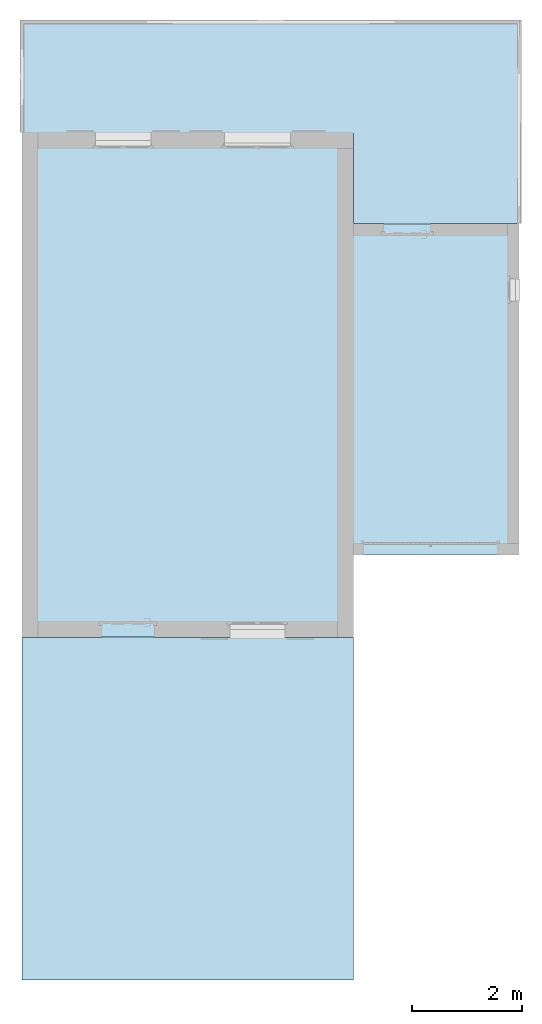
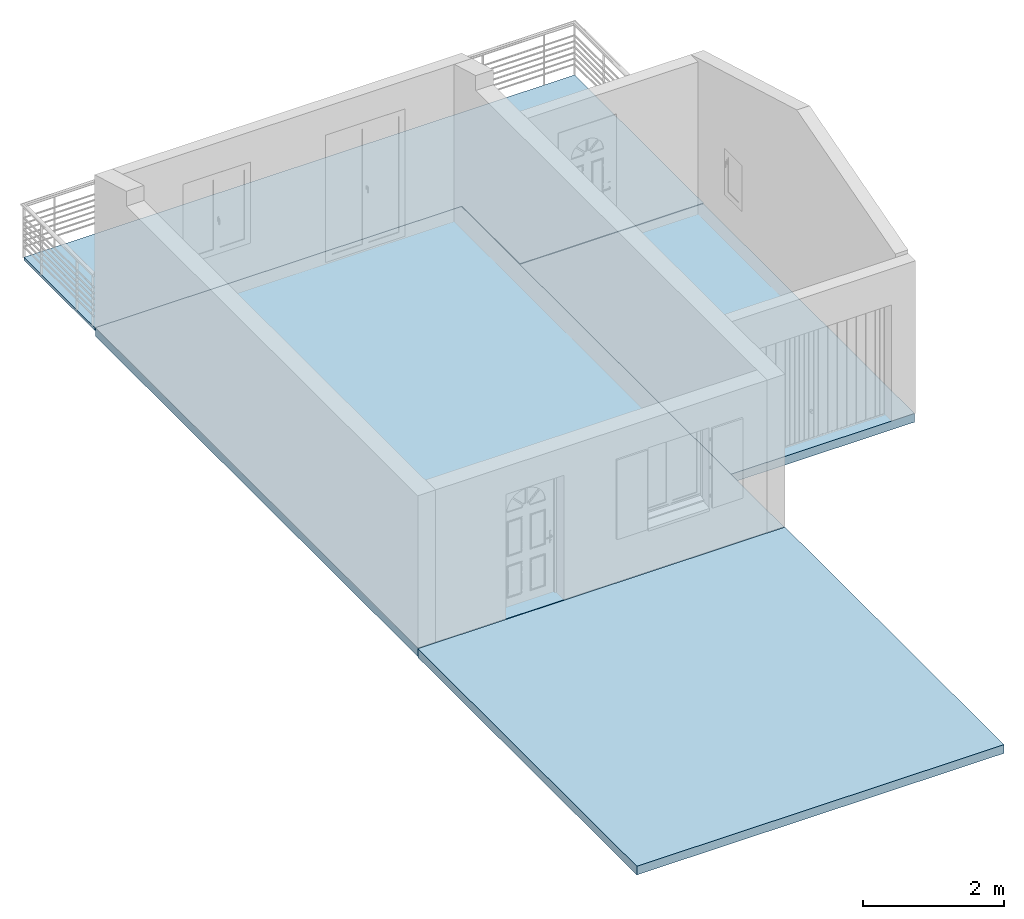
# One storey, part 1 of 6: 4 slabs.
"""IFC2X3 building model written with IfcOpenShell, lengths in metres."""

from ifc_helpers import new_model, entity, si_unit, converted_unit, derived_unit, direction, frame, frame_2d, origin, place, context, subcontext, project, spatial, polyline, rectangle, outline, extrude, material, layer, layer_set, layer_usage, element, save


model = new_model("IFC2X3")

# Units and contexts
model_context = context("Model", 3, precision=1e-05, world=origin(), true_north=direction((6.12303176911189e-17, 1.0)))
context_of_model = context(None, 3, precision=1e-05, world=origin(), true_north=direction((6.12303176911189e-17, 1.0)))
body_context = subcontext(model_context, "Body", "Model", "MODEL_VIEW")
ifc_project = project(units=[si_unit("LENGTHUNIT", "METRE"), si_unit("AREAUNIT", "SQUARE_METRE"), si_unit("VOLUMEUNIT", "CUBIC_METRE"), converted_unit("PLANEANGLEUNIT", "DEGREE", entity("IfcRatioMeasure", 0.0174532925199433), si_unit("PLANEANGLEUNIT", "RADIAN"), dimensions=[0, 0, 0, 0, 0, 0, 0]), si_unit("MASSUNIT", "GRAM", prefix="KILO"), si_unit("TIMEUNIT", "SECOND"), si_unit("FREQUENCYUNIT", "HERTZ"), si_unit("THERMODYNAMICTEMPERATUREUNIT", "DEGREE_CELSIUS"), derived_unit("THERMALTRANSMITTANCEUNIT", [(si_unit("MASSUNIT", "GRAM", prefix="KILO"), 1), (si_unit("THERMODYNAMICTEMPERATUREUNIT", "KELVIN"), -1), (si_unit("TIMEUNIT", "SECOND"), -3)]), derived_unit("VOLUMETRICFLOWRATEUNIT", [(si_unit("LENGTHUNIT", "METRE"), 3), (si_unit("TIMEUNIT", "SECOND"), -1)]), si_unit("ELECTRICCURRENTUNIT", "AMPERE"), si_unit("ELECTRICVOLTAGEUNIT", "VOLT"), si_unit("POWERUNIT", "WATT"), si_unit("FORCEUNIT", "NEWTON", prefix="KILO"), si_unit("ILLUMINANCEUNIT", "LUX"), si_unit("LUMINOUSFLUXUNIT", "LUMEN"), si_unit("LUMINOUSINTENSITYUNIT", "CANDELA"), si_unit("PRESSUREUNIT", "PASCAL")], contexts=[model_context, context_of_model])

# Site, building, storey
site_placement = place(None, origin())
site = spatial("IfcSite", under=ifc_project, at=site_placement, Name="Surface", CompositionType="ELEMENT")
building_placement = place(site_placement, origin())
building = spatial("IfcBuilding", under=site, at=building_placement, CompositionType="ELEMENT")
storey_placement = place(building_placement, origin())
storey = spatial("IfcBuildingStorey", under=building, at=storey_placement, Name="Niveau 0", CompositionType="ELEMENT", Elevation=-1.94916083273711e-14)

# Slabs
ifc_material_1 = material(Name="Maçonnerie - Béton")
ifc_layer_1 = layer(ifc_material_1, 0.15)
ifc_layer_set_1 = layer_set([ifc_layer_1], Name="Sol:Dalle en béton - 150 mm")
ifc_layer_usage_1 = layer_usage(ifc_layer_set_1, "AXIS3", "POSITIVE", 0.0)
slab_1_placement = place(storey_placement, origin())
element("IfcSlab", 1, at=slab_1_placement, inside=storey, material=ifc_layer_usage_1, Name="Sol:Dalle en béton - 150 mm", ObjectType="Sol:Dalle en béton - 150 mm", PredefinedType="FLOOR", context=body_context, shape_type="SweptSolid", body=[
    extrude(rectangle(XDim=9.13, YDim=5.98, at=frame_2d((-4.44089209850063e-15, 0.0), x_axis=(1.0, 0.0))), frame((-5.79909160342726, -2.78358265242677, 0.0), z_axis=(0.0, 0.0, -1.0), x_axis=(0.0, 1.0, 0.0)), (0.0, 0.0, 1.0), 0.15),
])
ifc_layer_usage_2 = layer_usage(ifc_layer_set_1, "AXIS3", "POSITIVE", 0.0)
slab_2_placement = place(storey_placement, origin())
element("IfcSlab", 2, at=slab_2_placement, inside=storey, material=ifc_layer_usage_2, Name="Sol:Dalle en béton - 150 mm", ObjectType="Sol:Dalle en béton - 150 mm", PredefinedType="FLOOR", context=body_context, shape_type="SweptSolid", body=[
    extrude(rectangle(XDim=5.98, YDim=2.99999999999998, at=frame_2d((0.0, 4.88498130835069e-15), x_axis=(1.0, 0.0))), frame((-1.30909160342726, -2.85858265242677, 0.0), z_axis=(0.0, 0.0, -1.0), x_axis=(0.0, 1.0, 0.0)), (0.0, 0.0, 1.0), 0.15),
])
ifc_material_2 = material(Name="Pin")
ifc_layer_2 = layer(ifc_material_2, 0.05)
ifc_layer_set_2 = layer_set([ifc_layer_2], Name="Sol:plancher bois")
ifc_layer_usage_3 = layer_usage(ifc_layer_set_2, "AXIS3", "POSITIVE", 0.0)
slab_3_placement = place(storey_placement, origin())
element("IfcSlab", 3, at=slab_3_placement, inside=storey, material=ifc_layer_usage_3, Name="Sol:plancher bois", ObjectType="Sol:plancher bois", PredefinedType="FLOOR", context=body_context, shape_type="SweptSolid", body=[
    extrude(outline(polyline([(-0.123333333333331, -5.0), (1.88666666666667, -5.0), (1.88666666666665, 4.0), (-1.76333333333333, 4.0), (-1.76333333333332, 1.0), (-0.12333333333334, 1.0), (-0.123333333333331, -5.0)])), frame((-3.79909160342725, 1.90475068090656, 0.0), z_axis=(0.0, 0.0, -1.0), x_axis=(0.0, 1.0, 0.0)), (0.0, 0.0, 1.0), 0.05),
])
ifc_layer_usage_4 = layer_usage(ifc_layer_set_1, "AXIS3", "POSITIVE", 0.0)
slab_4_placement = place(storey_placement, origin())
element("IfcSlab", 4, at=slab_4_placement, inside=storey, material=ifc_layer_usage_4, Name="Sol:Dalle en béton - 150 mm", ObjectType="Sol:Dalle en béton - 150 mm", PredefinedType="FLOOR", context=body_context, shape_type="SweptSolid", body=[
    extrude(rectangle(XDim=6.20000000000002, YDim=5.99999999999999, at=frame_2d((-4.44089209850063e-16, 4.44089209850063e-16), x_axis=(1.0, 0.0))), frame((-5.79909160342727, -10.4585826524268, 0.0), z_axis=(0.0, 0.0, -1.0), x_axis=(0.0, 1.0, 0.0)), (0.0, 0.0, 1.0), 0.15),
])

save(model, "model.ifc")
